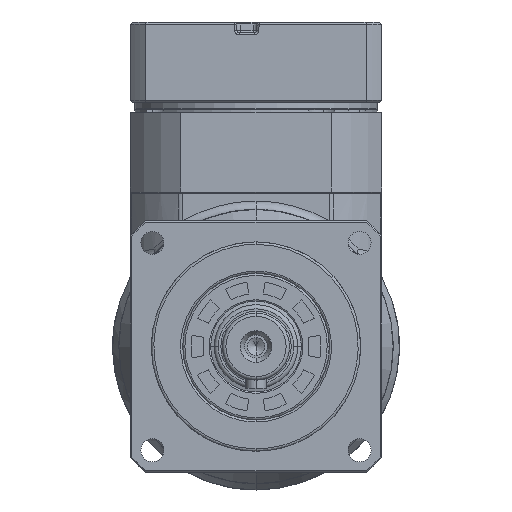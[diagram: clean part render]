
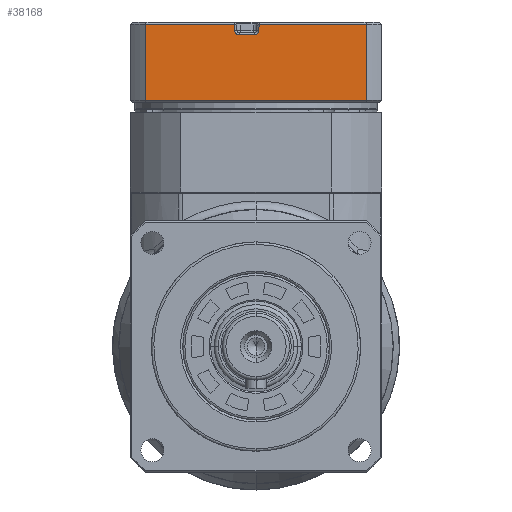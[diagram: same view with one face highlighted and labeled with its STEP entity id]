
A CAD part, left-side view. The second image highlights one B-rep face of the part: STEP entity #38168.
In plain terms, the highlighted planar face has unit normal (-1, 0, 0) as drawn and (0, 1, 0) by its records, which use the part's own axes.
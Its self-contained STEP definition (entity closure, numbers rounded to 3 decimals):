
#346 = EDGE_CURVE ( 'NONE', #7658, #56225, #5704, .T. ) ;
#3430 = CARTESIAN_POINT ( 'NONE',  ( 24.5, 30., -26.458 ) ) ;
#3479 = DIRECTION ( 'NONE',  ( 0., 0., -1. ) ) ;
#3683 = LINE ( 'NONE', #73230, #17112 ) ;
#5436 = ORIENTED_EDGE ( 'NONE', *, *, #346, .T. ) ;
#5704 = LINE ( 'NONE', #3430, #20879 ) ;
#6068 = CARTESIAN_POINT ( 'NONE',  ( 22.93, 30., -5.056 ) ) ;
#6368 = CARTESIAN_POINT ( 'NONE',  ( 24.5, 30., -26.458 ) ) ;
#7658 = VERTEX_POINT ( 'NONE', #65365 ) ;
#9897 = VECTOR ( 'NONE', #40169, 1000. ) ;
#10606 = ORIENTED_EDGE ( 'NONE', *, *, #36583, .T. ) ;
#10658 = PLANE ( 'NONE',  #24007 ) ;
#11468 = VECTOR ( 'NONE', #53517, 1000. ) ;
#12468 = LINE ( 'NONE', #17173, #57628 ) ;
#13535 = EDGE_CURVE ( 'NONE', #24699, #7658, #13661, .T. ) ;
#13661 = LINE ( 'NONE', #58057, #43753 ) ;
#17112 = VECTOR ( 'NONE', #39565, 1000. ) ;
#17173 = CARTESIAN_POINT ( 'NONE',  ( 24.5, 30., -26.458 ) ) ;
#17614 = ORIENTED_EDGE ( 'NONE', *, *, #17955, .T. ) ;
#17955 = EDGE_CURVE ( 'NONE', #56495, #55227, #40048, .T. ) ;
#18306 = DIRECTION ( 'NONE',  ( 0., -1., 0. ) ) ;
#18348 = VERTEX_POINT ( 'NONE', #29430 ) ;
#20879 = VECTOR ( 'NONE', #3479, 1000. ) ;
#21989 = CARTESIAN_POINT ( 'NONE',  ( 24.5, 30., 0.767 ) ) ;
#23858 = CARTESIAN_POINT ( 'NONE',  ( 22., 30., -0.34 ) ) ;
#24007 = AXIS2_PLACEMENT_3D ( 'NONE', #67376, #33652, #73012 ) ;
#24699 = VERTEX_POINT ( 'NONE', #6068 ) ;
#25414 = VECTOR ( 'NONE', #28130, 1000. ) ;
#25695 = CARTESIAN_POINT ( 'NONE',  ( 24.5, 30., 0.767 ) ) ;
#26140 = CARTESIAN_POINT ( 'NONE',  ( 6.3, 30., -26.458 ) ) ;
#27063 = EDGE_LOOP ( 'NONE', ( #49648, #5436, #68185, #17614, #10606, #43397, #37344, #29509, #54274, #69972 ) ) ;
#28130 = DIRECTION ( 'NONE',  ( 1., 0., 0. ) ) ;
#28488 = DIRECTION ( 'NONE',  ( 0., 0., -1. ) ) ;
#28898 = DIRECTION ( 'NONE',  ( 0., -1., 0. ) ) ;
#29430 = CARTESIAN_POINT ( 'NONE',  ( 22., 30., -4.058 ) ) ;
#29509 = ORIENTED_EDGE ( 'NONE', *, *, #48209, .T. ) ;
#32066 = EDGE_CURVE ( 'NONE', #53588, #18348, #69699, .T. ) ;
#32383 = CARTESIAN_POINT ( 'NONE',  ( 6.3, 30., 26.458 ) ) ;
#33652 = DIRECTION ( 'NONE',  ( 0., 1., 0. ) ) ;
#36583 = EDGE_CURVE ( 'NONE', #55227, #59291, #42224, .T. ) ;
#37344 = ORIENTED_EDGE ( 'NONE', *, *, #42742, .T. ) ;
#38168 = ADVANCED_FACE ( 'NONE', ( #44453 ), #10658, .T. ) ;
#39565 = DIRECTION ( 'NONE',  ( -1., 0., 0. ) ) ;
#40048 = LINE ( 'NONE', #40813, #9897 ) ;
#40169 = DIRECTION ( 'NONE',  ( 0., 0., 1. ) ) ;
#40813 = CARTESIAN_POINT ( 'NONE',  ( 6.3, 30., 0. ) ) ;
#42066 = EDGE_CURVE ( 'NONE', #59291, #49550, #12468, .T. ) ;
#42224 = LINE ( 'NONE', #72923, #25414 ) ;
#42742 = EDGE_CURVE ( 'NONE', #49550, #58386, #60016, .T. ) ;
#43206 = VECTOR ( 'NONE', #65123, 1000. ) ;
#43397 = ORIENTED_EDGE ( 'NONE', *, *, #42066, .T. ) ;
#43753 = VECTOR ( 'NONE', #57733, 1000. ) ;
#44453 = FACE_OUTER_BOUND ( 'NONE', #27063, .T. ) ;
#48209 = EDGE_CURVE ( 'NONE', #58386, #53588, #57641, .T. ) ;
#49550 = VERTEX_POINT ( 'NONE', #21989 ) ;
#49648 = ORIENTED_EDGE ( 'NONE', *, *, #13535, .T. ) ;
#52139 = CARTESIAN_POINT ( 'NONE',  ( 23., 30., -0.34 ) ) ;
#53517 = DIRECTION ( 'NONE',  ( 0., 0., -1. ) ) ;
#53588 = VERTEX_POINT ( 'NONE', #23858 ) ;
#54274 = ORIENTED_EDGE ( 'NONE', *, *, #32066, .T. ) ;
#55227 = VERTEX_POINT ( 'NONE', #32383 ) ;
#55322 = EDGE_CURVE ( 'NONE', #18348, #24699, #70964, .T. ) ;
#56225 = VERTEX_POINT ( 'NONE', #6368 ) ;
#56495 = VERTEX_POINT ( 'NONE', #26140 ) ;
#57139 = EDGE_CURVE ( 'NONE', #56225, #56495, #3683, .T. ) ;
#57628 = VECTOR ( 'NONE', #28488, 1000. ) ;
#57641 = CIRCLE ( 'NONE', #68783, 1. ) ;
#57733 = DIRECTION ( 'NONE',  ( 0.998, 0., -0.07 ) ) ;
#57843 = DIRECTION ( 'NONE',  ( -1., 0., 0. ) ) ;
#57967 = CARTESIAN_POINT ( 'NONE',  ( 24.5, 30., 26.458 ) ) ;
#58057 = CARTESIAN_POINT ( 'NONE',  ( 22.93, 30., -5.056 ) ) ;
#58386 = VERTEX_POINT ( 'NONE', #63959 ) ;
#58637 = AXIS2_PLACEMENT_3D ( 'NONE', #62711, #28898, #68303 ) ;
#59291 = VERTEX_POINT ( 'NONE', #57967 ) ;
#60016 = LINE ( 'NONE', #25695, #43206 ) ;
#62711 = CARTESIAN_POINT ( 'NONE',  ( 23., 30., -4.058 ) ) ;
#63959 = CARTESIAN_POINT ( 'NONE',  ( 22.93, 30., 0.657 ) ) ;
#65123 = DIRECTION ( 'NONE',  ( -0.998, 0., -0.07 ) ) ;
#65365 = CARTESIAN_POINT ( 'NONE',  ( 24.5, 30., -5.165 ) ) ;
#67376 = CARTESIAN_POINT ( 'NONE',  ( -51., 30., -26.458 ) ) ;
#68185 = ORIENTED_EDGE ( 'NONE', *, *, #57139, .T. ) ;
#68303 = DIRECTION ( 'NONE',  ( 0., 0., 1. ) ) ;
#68783 = AXIS2_PLACEMENT_3D ( 'NONE', #52139, #18306, #57843 ) ;
#69699 = LINE ( 'NONE', #71010, #11468 ) ;
#69972 = ORIENTED_EDGE ( 'NONE', *, *, #55322, .T. ) ;
#70964 = CIRCLE ( 'NONE', #58637, 1. ) ;
#71010 = CARTESIAN_POINT ( 'NONE',  ( 22., 30., -26.458 ) ) ;
#72923 = CARTESIAN_POINT ( 'NONE',  ( -51., 30., 26.458 ) ) ;
#73012 = DIRECTION ( 'NONE',  ( 0., 0., 1. ) ) ;
#73230 = CARTESIAN_POINT ( 'NONE',  ( -51., 30., -26.458 ) ) ;
